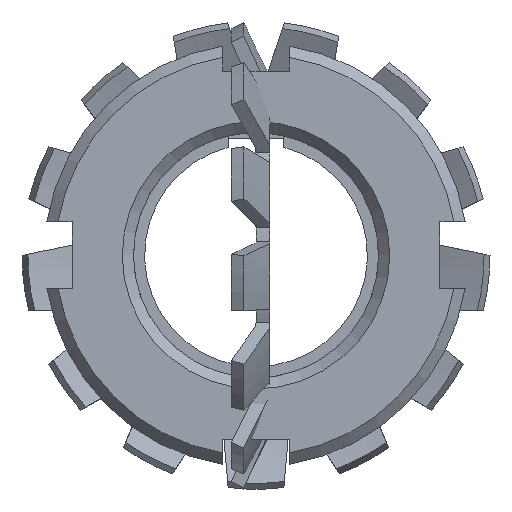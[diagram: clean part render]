
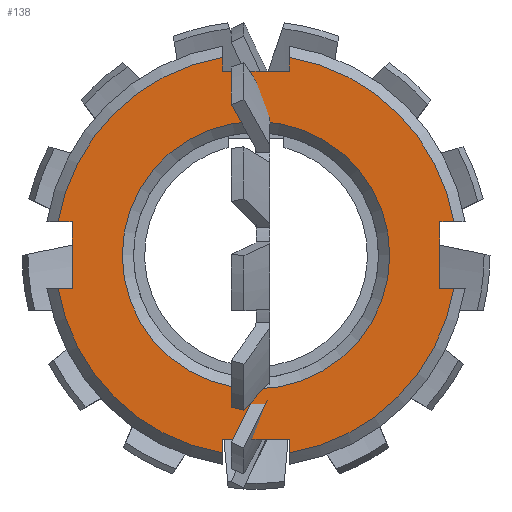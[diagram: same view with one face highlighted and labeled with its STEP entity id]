
A CAD part, front view. The second image highlights one B-rep face of the part: STEP entity #138.
In plain terms, the highlighted planar face has unit normal (0, -1, 0).
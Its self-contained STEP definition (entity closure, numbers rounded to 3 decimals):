
#138 = ADVANCED_FACE( '', ( #268, #269 ), #270, .F. );
#268 = FACE_BOUND( '', #398, .T. );
#269 = FACE_OUTER_BOUND( '', #399, .T. );
#270 = PLANE( '', #400 );
#398 = EDGE_LOOP( '', ( #776 ) );
#399 = EDGE_LOOP( '', ( #777, #778, #779, #780, #781, #782, #783, #784, #785, #786, #787, #788, #789, #790, #791, #792 ) );
#400 = AXIS2_PLACEMENT_3D( '', #793, #794, #795 );
#776 = ORIENTED_EDGE( '', *, *, #1096, .F. );
#777 = ORIENTED_EDGE( '', *, *, #1081, .F. );
#778 = ORIENTED_EDGE( '', *, *, #1113, .T. );
#779 = ORIENTED_EDGE( '', *, *, #1048, .T. );
#780 = ORIENTED_EDGE( '', *, *, #1010, .T. );
#781 = ORIENTED_EDGE( '', *, *, #1125, .F. );
#782 = ORIENTED_EDGE( '', *, *, #1121, .T. );
#783 = ORIENTED_EDGE( '', *, *, #1092, .T. );
#784 = ORIENTED_EDGE( '', *, *, #1064, .T. );
#785 = ORIENTED_EDGE( '', *, *, #1119, .F. );
#786 = ORIENTED_EDGE( '', *, *, #1013, .T. );
#787 = ORIENTED_EDGE( '', *, *, #1032, .T. );
#788 = ORIENTED_EDGE( '', *, *, #1107, .T. );
#789 = ORIENTED_EDGE( '', *, *, #1027, .F. );
#790 = ORIENTED_EDGE( '', *, *, #1088, .T. );
#791 = ORIENTED_EDGE( '', *, *, #1126, .T. );
#792 = ORIENTED_EDGE( '', *, *, #1127, .T. );
#793 = CARTESIAN_POINT( '', ( 0., -10.25, 19. ) );
#794 = DIRECTION( '', ( 0., 1., 0. ) );
#795 = DIRECTION( '', ( 0., 0., 1. ) );
#1010 = EDGE_CURVE( '', #1306, #1310, #1312, .F. );
#1013 = EDGE_CURVE( '', #1317, #1315, #1318, .T. );
#1027 = EDGE_CURVE( '', #1341, #1343, #1344, .T. );
#1032 = EDGE_CURVE( '', #1315, #1350, #1352, .T. );
#1048 = EDGE_CURVE( '', #1378, #1306, #1379, .T. );
#1064 = EDGE_CURVE( '', #1399, #1403, #1405, .F. );
#1081 = EDGE_CURVE( '', #1431, #1433, #1434, .T. );
#1088 = EDGE_CURVE( '', #1341, #1440, #1442, .T. );
#1092 = EDGE_CURVE( '', #1446, #1399, #1447, .T. );
#1096 = EDGE_CURVE( '', #1451, #1451, #1452, .T. );
#1107 = EDGE_CURVE( '', #1350, #1343, #1464, .F. );
#1113 = EDGE_CURVE( '', #1431, #1378, #1471, .T. );
#1119 = EDGE_CURVE( '', #1317, #1403, #1477, .T. );
#1121 = EDGE_CURVE( '', #1479, #1446, #1480, .T. );
#1125 = EDGE_CURVE( '', #1479, #1310, #1484, .T. );
#1126 = EDGE_CURVE( '', #1440, #1485, #1486, .T. );
#1127 = EDGE_CURVE( '', #1485, #1433, #1487, .F. );
#1306 = VERTEX_POINT( '', #2240 );
#1310 = VERTEX_POINT( '', #2247 );
#1312 = CIRCLE( '', #2252, 18. );
#1315 = VERTEX_POINT( '', #2255 );
#1317 = VERTEX_POINT( '', #2258 );
#1318 = LINE( '', #2259, #2260 );
#1341 = VERTEX_POINT( '', #2306 );
#1343 = VERTEX_POINT( '', #2309 );
#1344 = LINE( '', #2310, #2311 );
#1350 = VERTEX_POINT( '', #2321 );
#1352 = LINE( '', #2326, #2327 );
#1378 = VERTEX_POINT( '', #2371 );
#1379 = LINE( '', #2372, #2373 );
#1399 = VERTEX_POINT( '', #2399 );
#1403 = VERTEX_POINT( '', #2406 );
#1405 = CIRCLE( '', #2411, 18. );
#1431 = VERTEX_POINT( '', #2474 );
#1433 = VERTEX_POINT( '', #2477 );
#1434 = LINE( '', #2478, #2479 );
#1440 = VERTEX_POINT( '', #2490 );
#1442 = LINE( '', #2493, #2494 );
#1446 = VERTEX_POINT( '', #2498 );
#1447 = LINE( '', #2499, #2500 );
#1451 = VERTEX_POINT( '', #2506 );
#1452 = CIRCLE( '', #2507, 12. );
#1464 = CIRCLE( '', #2522, 18. );
#1471 = LINE( '', #2530, #2531 );
#1477 = LINE( '', #2537, #2538 );
#1479 = VERTEX_POINT( '', #2540 );
#1480 = LINE( '', #2541, #2542 );
#1484 = LINE( '', #2547, #2548 );
#1485 = VERTEX_POINT( '', #2549 );
#1486 = LINE( '', #2550, #2551 );
#1487 = CIRCLE( '', #2552, 18. );
#2240 = CARTESIAN_POINT( '', ( -17.748, -10.25, -3. ) );
#2247 = CARTESIAN_POINT( '', ( -3., -10.25, -17.748 ) );
#2252 = AXIS2_PLACEMENT_3D( '', #2811, #2812, #2813 );
#2255 = CARTESIAN_POINT( '', ( 16.5, -10.25, 3. ) );
#2258 = CARTESIAN_POINT( '', ( 16.5, -10.25, -3. ) );
#2259 = CARTESIAN_POINT( '', ( 16.5, -10.25, -3. ) );
#2260 = VECTOR( '', #2815, 1000. );
#2306 = CARTESIAN_POINT( '', ( 3., -10.25, 16.5 ) );
#2309 = CARTESIAN_POINT( '', ( 3., -10.25, 17.748 ) );
#2310 = CARTESIAN_POINT( '', ( 3., -10.25, 19. ) );
#2311 = VECTOR( '', #2824, 1000. );
#2321 = CARTESIAN_POINT( '', ( 17.748, -10.25, 3. ) );
#2326 = CARTESIAN_POINT( '', ( 19., -10.25, 3. ) );
#2327 = VECTOR( '', #2826, 1000. );
#2371 = CARTESIAN_POINT( '', ( -16.5, -10.25, -3. ) );
#2372 = CARTESIAN_POINT( '', ( -19., -10.25, -3. ) );
#2373 = VECTOR( '', #2839, 1000. );
#2399 = CARTESIAN_POINT( '', ( 3., -10.25, -17.748 ) );
#2406 = CARTESIAN_POINT( '', ( 17.748, -10.25, -3. ) );
#2411 = AXIS2_PLACEMENT_3D( '', #2861, #2862, #2863 );
#2474 = CARTESIAN_POINT( '', ( -16.5, -10.25, 3. ) );
#2477 = CARTESIAN_POINT( '', ( -17.748, -10.25, 3. ) );
#2478 = CARTESIAN_POINT( '', ( -19., -10.25, 3. ) );
#2479 = VECTOR( '', #2878, 1000. );
#2490 = CARTESIAN_POINT( '', ( -3., -10.25, 16.5 ) );
#2493 = CARTESIAN_POINT( '', ( 3., -10.25, 16.5 ) );
#2494 = VECTOR( '', #2882, 1000. );
#2498 = CARTESIAN_POINT( '', ( 3., -10.25, -16.5 ) );
#2499 = CARTESIAN_POINT( '', ( 3., -10.25, -19. ) );
#2500 = VECTOR( '', #2886, 1000. );
#2506 = CARTESIAN_POINT( '', ( 0., -10.25, -12. ) );
#2507 = AXIS2_PLACEMENT_3D( '', #2889, #2890, #2891 );
#2522 = AXIS2_PLACEMENT_3D( '', #2901, #2902, #2903 );
#2530 = CARTESIAN_POINT( '', ( -16.5, -10.25, 3. ) );
#2531 = VECTOR( '', #2911, 1000. );
#2537 = CARTESIAN_POINT( '', ( 19., -10.25, -3. ) );
#2538 = VECTOR( '', #2918, 1000. );
#2540 = CARTESIAN_POINT( '', ( -3., -10.25, -16.5 ) );
#2541 = CARTESIAN_POINT( '', ( -3., -10.25, -16.5 ) );
#2542 = VECTOR( '', #2919, 1000. );
#2547 = CARTESIAN_POINT( '', ( -3., -10.25, -19. ) );
#2548 = VECTOR( '', #2921, 1000. );
#2549 = CARTESIAN_POINT( '', ( -3., -10.25, 17.748 ) );
#2550 = CARTESIAN_POINT( '', ( -3., -10.25, 19. ) );
#2551 = VECTOR( '', #2922, 1000. );
#2552 = AXIS2_PLACEMENT_3D( '', #2923, #2924, #2925 );
#2811 = CARTESIAN_POINT( '', ( 0., -10.25, 0. ) );
#2812 = DIRECTION( '', ( 0., 1., 0. ) );
#2813 = DIRECTION( '', ( 0., 0., 1. ) );
#2815 = DIRECTION( '', ( 0., 0., 1. ) );
#2824 = DIRECTION( '', ( 0., 0., 1. ) );
#2826 = DIRECTION( '', ( 1., 0., 0. ) );
#2839 = DIRECTION( '', ( -1., 0., 0. ) );
#2861 = CARTESIAN_POINT( '', ( 0., -10.25, 0. ) );
#2862 = DIRECTION( '', ( 0., 1., 0. ) );
#2863 = DIRECTION( '', ( 0., 0., 1. ) );
#2878 = DIRECTION( '', ( -1., 0., 0. ) );
#2882 = DIRECTION( '', ( -1., 0., 0. ) );
#2886 = DIRECTION( '', ( 0., 0., -1. ) );
#2889 = CARTESIAN_POINT( '', ( 0., -10.25, 0. ) );
#2890 = DIRECTION( '', ( 0., -1., 0. ) );
#2891 = DIRECTION( '', ( 0., 0., -1. ) );
#2901 = CARTESIAN_POINT( '', ( 0., -10.25, 0. ) );
#2902 = DIRECTION( '', ( 0., 1., 0. ) );
#2903 = DIRECTION( '', ( 0., 0., 1. ) );
#2911 = DIRECTION( '', ( 0., 0., -1. ) );
#2918 = DIRECTION( '', ( 1., 0., 0. ) );
#2919 = DIRECTION( '', ( 1., 0., 0. ) );
#2921 = DIRECTION( '', ( 0., 0., -1. ) );
#2922 = DIRECTION( '', ( 0., 0., 1. ) );
#2923 = CARTESIAN_POINT( '', ( 0., -10.25, 0. ) );
#2924 = DIRECTION( '', ( 0., 1., 0. ) );
#2925 = DIRECTION( '', ( 0., 0., 1. ) );
